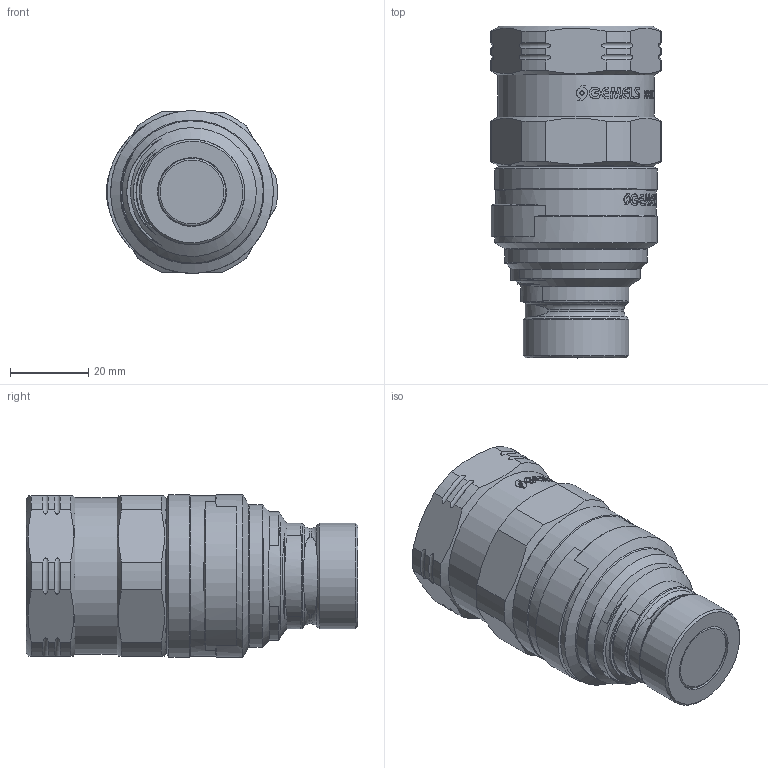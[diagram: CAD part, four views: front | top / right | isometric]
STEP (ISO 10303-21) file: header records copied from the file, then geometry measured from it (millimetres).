
FILE_DESCRIPTION(/* description */ (''),/* implementation_level */ '2;1');
FILE_NAME(/* name */ 'NC05S040004.stp',/* time_stamp */ '2024-11-19T11:48:51+01:00',/* author */ ('thomas.belotti'),/* organization */ (''),/* preprocessor_version */ 'ST-DEVELOPER v20',/* originating_system */ 'Autodesk Inventor 2024',/* authorisation */ '');
FILE_SCHEMA (('AUTOMOTIVE_DESIGN { 1 0 10303 214 3 1 1 }'));
Length unit declared in the file: millimetre
Products named in the file (1): Parte19
Bounding box: 43.73 x 85 x 41.68 mm (x, y, z)
Volume: 84842.3 mm3; surface area: 16416.8 mm2
Topology: 1 solids, 7 shells, 1135 faces, 3201 edges, 2133 vertices
Faces by surface type: bspline 702, plane 284, cylinder 97, cone 27, torus 25
Full cylindrical faces by diameter (mm): 17.65 x1, 24.91 x1, 27 x1, 36.5 x1, 40 x1, 41.2 x1, 41.7 x2
Entity records: 48976 total; most frequent: CARTESIAN_POINT 23128, ORIENTED_EDGE 6402, EDGE_CURVE 3201, DIRECTION 2978, VERTEX_POINT 2132, B_SPLINE_CURVE_WITH_KNOTS 1502, LINE 1232, VECTOR 1232
